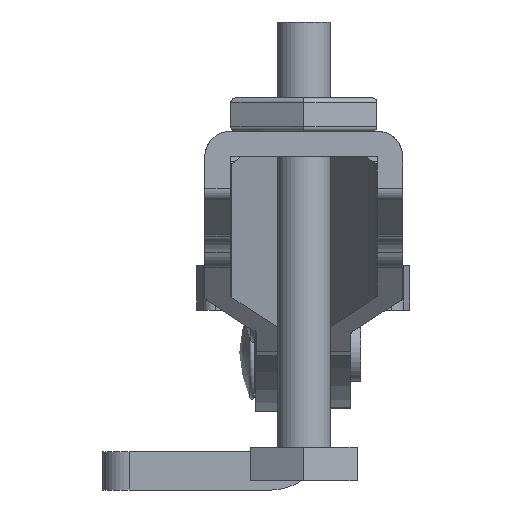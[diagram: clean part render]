
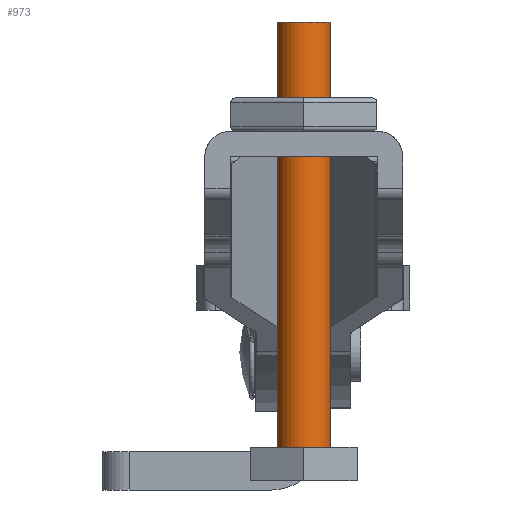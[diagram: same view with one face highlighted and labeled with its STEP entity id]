
A CAD part, left-side view. The second image highlights one B-rep face of the part: STEP entity #973.
In plain terms, the highlighted cylindrical face has radius 1.587 mm (diameter 3.175 mm), a full revolution.
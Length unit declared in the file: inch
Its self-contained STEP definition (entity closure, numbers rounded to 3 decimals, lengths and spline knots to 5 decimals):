
#774=CYLINDRICAL_SURFACE('',#4028,0.0625);
#973=ADVANCED_FACE('',(#1204,#1205),#774,.T.);
#1204=FACE_BOUND('',#1629,.T.);
#1205=FACE_BOUND('',#1630,.T.);
#1629=EDGE_LOOP('',(#2445));
#1630=EDGE_LOOP('',(#2446));
#2445=ORIENTED_EDGE('',*,*,#3417,.T.);
#2446=ORIENTED_EDGE('',*,*,#3418,.T.);
#2962=VERTEX_POINT('',#6910);
#2963=VERTEX_POINT('',#6913);
#3417=EDGE_CURVE('',#2962,#2962,#3670,.T.);
#3418=EDGE_CURVE('',#2963,#2963,#3671,.T.);
#3670=CIRCLE('',#4025,0.0625);
#3671=CIRCLE('',#4027,0.0625);
#4025=AXIS2_PLACEMENT_3D('',#6909,#4897,#4898);
#4027=AXIS2_PLACEMENT_3D('',#6912,#4901,#4902);
#4028=AXIS2_PLACEMENT_3D('',#6914,#4903,#4904);
#4897=DIRECTION('',(0.,0.,1.));
#4898=DIRECTION('',(0.,1.,0.));
#4901=DIRECTION('',(0.,0.,-1.));
#4902=DIRECTION('',(-1.,0.,0.));
#4903=DIRECTION('',(0.,0.,-1.));
#4904=DIRECTION('',(-1.,0.,0.));
#6909=CARTESIAN_POINT('',(-1.1119,-0.31759,0.09997));
#6910=CARTESIAN_POINT('',(-1.1119,-0.25509,0.09997));
#6912=CARTESIAN_POINT('',(-1.1119,-0.31759,1.09997));
#6913=CARTESIAN_POINT('',(-1.1744,-0.31759,1.09997));
#6914=CARTESIAN_POINT('',(-1.1119,-0.31759,1.09997));
